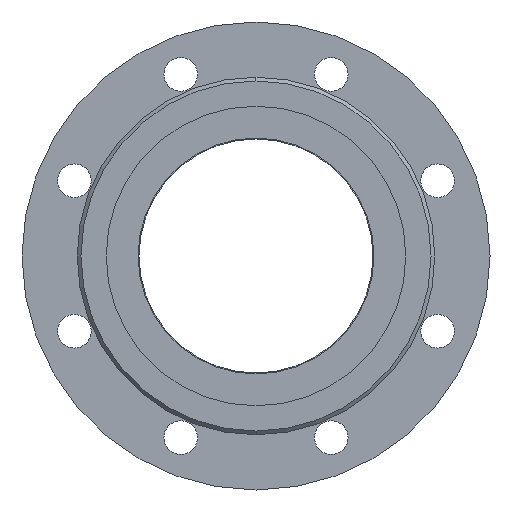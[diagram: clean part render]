
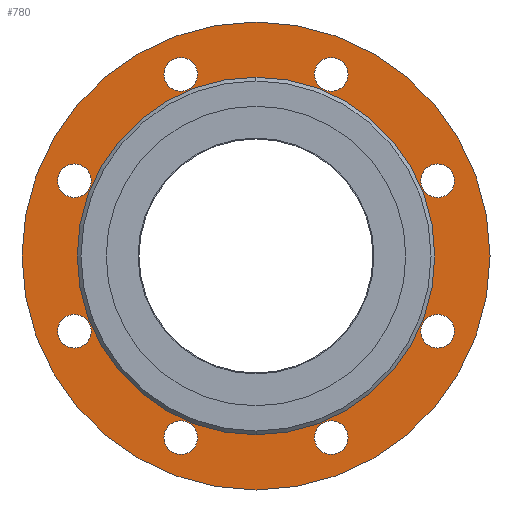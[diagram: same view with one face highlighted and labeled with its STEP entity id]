
A CAD part, left-side view. The second image highlights one B-rep face of the part: STEP entity #780.
In plain terms, the highlighted planar face has unit normal (-1, 0, 0).
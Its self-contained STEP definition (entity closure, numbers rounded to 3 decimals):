
#780=ADVANCED_FACE('',(#1480,#1481,#1482,#1483,#1484,#1485,#1486,#1487,#1488,#1489),#1490,.F.);
#1480=FACE_BOUND('',#2290,.T.);
#1481=FACE_BOUND('',#2291,.T.);
#1482=FACE_BOUND('',#2292,.T.);
#1483=FACE_BOUND('',#2293,.T.);
#1484=FACE_BOUND('',#2294,.T.);
#1485=FACE_BOUND('',#2295,.T.);
#1486=FACE_BOUND('',#2296,.T.);
#1487=FACE_BOUND('',#2297,.T.);
#1488=FACE_BOUND('',#2298,.T.);
#1489=FACE_OUTER_BOUND('',#2299,.T.);
#1490=PLANE('',#2300);
#2290=EDGE_LOOP('',(#3655,#3656));
#2291=EDGE_LOOP('',(#3657,#3658));
#2292=EDGE_LOOP('',(#3659,#3660));
#2293=EDGE_LOOP('',(#3661,#3662));
#2294=EDGE_LOOP('',(#3663,#3664));
#2295=EDGE_LOOP('',(#3665,#3666));
#2296=EDGE_LOOP('',(#3667,#3668));
#2297=EDGE_LOOP('',(#3669,#3670));
#2298=EDGE_LOOP('',(#3671,#3672));
#2299=EDGE_LOOP('',(#3673,#3674));
#2300=AXIS2_PLACEMENT_3D('',#3675,#3676,#3677);
#3655=ORIENTED_EDGE('',*,*,#4785,.T.);
#3656=ORIENTED_EDGE('',*,*,#4671,.T.);
#3657=ORIENTED_EDGE('',*,*,#4827,.T.);
#3658=ORIENTED_EDGE('',*,*,#4664,.T.);
#3659=ORIENTED_EDGE('',*,*,#4819,.T.);
#3660=ORIENTED_EDGE('',*,*,#4800,.T.);
#3661=ORIENTED_EDGE('',*,*,#4828,.T.);
#3662=ORIENTED_EDGE('',*,*,#4329,.T.);
#3663=ORIENTED_EDGE('',*,*,#4829,.T.);
#3664=ORIENTED_EDGE('',*,*,#4830,.T.);
#3665=ORIENTED_EDGE('',*,*,#4831,.T.);
#3666=ORIENTED_EDGE('',*,*,#4488,.T.);
#3667=ORIENTED_EDGE('',*,*,#4511,.T.);
#3668=ORIENTED_EDGE('',*,*,#4809,.T.);
#3669=ORIENTED_EDGE('',*,*,#4388,.T.);
#3670=ORIENTED_EDGE('',*,*,#4832,.T.);
#3671=ORIENTED_EDGE('',*,*,#4703,.T.);
#3672=ORIENTED_EDGE('',*,*,#4674,.T.);
#3673=ORIENTED_EDGE('',*,*,#4757,.F.);
#3674=ORIENTED_EDGE('',*,*,#4833,.F.);
#3675=CARTESIAN_POINT('',(5.0,0.0,0.));
#3676=DIRECTION('',(1.0,0.0,0.));
#3677=DIRECTION('',(0.,0.0,-1.0));
#4329=EDGE_CURVE('',#5048,#5046,#5049,.T.);
#4388=EDGE_CURVE('',#5142,#5146,#5148,.T.);
#4488=EDGE_CURVE('',#5312,#5310,#5313,.T.);
#4511=EDGE_CURVE('',#5344,#5348,#5350,.T.);
#4664=EDGE_CURVE('',#5585,#5583,#5586,.T.);
#4671=EDGE_CURVE('',#5592,#5596,#5598,.T.);
#4674=EDGE_CURVE('',#5603,#5601,#5604,.T.);
#4703=EDGE_CURVE('',#5601,#5603,#5637,.T.);
#4757=EDGE_CURVE('',#5712,#5714,#5715,.T.);
#4785=EDGE_CURVE('',#5596,#5592,#5749,.T.);
#4800=EDGE_CURVE('',#5769,#5767,#5770,.T.);
#4809=EDGE_CURVE('',#5348,#5344,#5779,.T.);
#4819=EDGE_CURVE('',#5767,#5769,#5789,.T.);
#4827=EDGE_CURVE('',#5583,#5585,#5799,.T.);
#4828=EDGE_CURVE('',#5046,#5048,#5800,.T.);
#4829=EDGE_CURVE('',#5801,#5802,#5803,.T.);
#4830=EDGE_CURVE('',#5802,#5801,#5804,.T.);
#4831=EDGE_CURVE('',#5310,#5312,#5805,.T.);
#4832=EDGE_CURVE('',#5146,#5142,#5806,.T.);
#4833=EDGE_CURVE('',#5714,#5712,#5807,.T.);
#5046=VERTEX_POINT('',#6053);
#5048=VERTEX_POINT('',#6056);
#5049=CIRCLE('',#6057,9.0);
#5142=VERTEX_POINT('',#6175);
#5146=VERTEX_POINT('',#6180);
#5148=CIRCLE('',#6183,9.0);
#5310=VERTEX_POINT('',#6380);
#5312=VERTEX_POINT('',#6383);
#5313=CIRCLE('',#6384,9.0);
#5344=VERTEX_POINT('',#6418);
#5348=VERTEX_POINT('',#6423);
#5350=CIRCLE('',#6426,9.0);
#5583=VERTEX_POINT('',#6717);
#5585=VERTEX_POINT('',#6720);
#5586=CIRCLE('',#6721,9.0);
#5592=VERTEX_POINT('',#6728);
#5596=VERTEX_POINT('',#6733);
#5598=CIRCLE('',#6736,62.5);
#5601=VERTEX_POINT('',#6739);
#5603=VERTEX_POINT('',#6742);
#5604=CIRCLE('',#6743,9.0);
#5637=CIRCLE('',#6788,9.0);
#5712=VERTEX_POINT('',#6872);
#5714=VERTEX_POINT('',#6875);
#5715=CIRCLE('',#6876,125.0);
#5749=CIRCLE('',#6923,62.5);
#5767=VERTEX_POINT('',#6944);
#5769=VERTEX_POINT('',#6947);
#5770=CIRCLE('',#6948,9.0);
#5779=CIRCLE('',#6959,9.0);
#5789=CIRCLE('',#6972,9.0);
#5799=CIRCLE('',#6986,9.0);
#5800=CIRCLE('',#6987,9.0);
#5801=VERTEX_POINT('',#6988);
#5802=VERTEX_POINT('',#6989);
#5803=CIRCLE('',#6990,9.0);
#5804=CIRCLE('',#6991,9.0);
#5805=CIRCLE('',#6992,9.0);
#5806=CIRCLE('',#6993,9.0);
#5807=CIRCLE('',#6994,125.0);
#6053=CARTESIAN_POINT('',(5.0,-97.007,31.182));
#6056=CARTESIAN_POINT('',(5.0,-97.007,49.182));
#6057=AXIS2_PLACEMENT_3D('',#7236,#7237,#7238);
#6175=CARTESIAN_POINT('',(5.0,-97.007,-49.182));
#6180=CARTESIAN_POINT('',(5.0,-97.007,-31.182));
#6183=AXIS2_PLACEMENT_3D('',#7317,#7318,#7319);
#6380=CARTESIAN_POINT('',(5.0,97.007,31.182));
#6383=CARTESIAN_POINT('',(5.0,97.007,49.182));
#6384=AXIS2_PLACEMENT_3D('',#7473,#7474,#7475);
#6418=CARTESIAN_POINT('',(5.0,40.182,88.007));
#6423=CARTESIAN_POINT('',(5.,40.182,106.007));
#6426=AXIS2_PLACEMENT_3D('',#7514,#7515,#7516);
#6717=CARTESIAN_POINT('',(5.0,97.007,-49.182));
#6720=CARTESIAN_POINT('',(5.0,97.007,-31.182));
#6721=AXIS2_PLACEMENT_3D('',#7729,#7730,#7731);
#6728=CARTESIAN_POINT('',(5.0,0.,-62.5));
#6733=CARTESIAN_POINT('',(5.0,0.,62.5));
#6736=AXIS2_PLACEMENT_3D('',#7741,#7742,#7743);
#6739=CARTESIAN_POINT('',(5.0,-40.182,-106.007));
#6742=CARTESIAN_POINT('',(5.,-40.182,-88.007));
#6743=AXIS2_PLACEMENT_3D('',#7745,#7746,#7747);
#6788=AXIS2_PLACEMENT_3D('',#7775,#7776,#7777);
#6872=CARTESIAN_POINT('',(5.,0.0,-125.0));
#6875=CARTESIAN_POINT('',(5.,0.,125.0));
#6876=AXIS2_PLACEMENT_3D('',#7878,#7879,#7880);
#6923=AXIS2_PLACEMENT_3D('',#7906,#7907,#7908);
#6944=CARTESIAN_POINT('',(5.0,40.182,-106.007));
#6947=CARTESIAN_POINT('',(5.,40.182,-88.007));
#6948=AXIS2_PLACEMENT_3D('',#7925,#7926,#7927);
#6959=AXIS2_PLACEMENT_3D('',#7933,#7934,#7935);
#6972=AXIS2_PLACEMENT_3D('',#7942,#7943,#7944);
#6986=AXIS2_PLACEMENT_3D('',#7949,#7950,#7951);
#6987=AXIS2_PLACEMENT_3D('',#7952,#7953,#7954);
#6988=CARTESIAN_POINT('',(5.0,-40.182,88.007));
#6989=CARTESIAN_POINT('',(5.,-40.182,106.007));
#6990=AXIS2_PLACEMENT_3D('',#7955,#7956,#7957);
#6991=AXIS2_PLACEMENT_3D('',#7958,#7959,#7960);
#6992=AXIS2_PLACEMENT_3D('',#7961,#7962,#7963);
#6993=AXIS2_PLACEMENT_3D('',#7964,#7965,#7966);
#6994=AXIS2_PLACEMENT_3D('',#7967,#7968,#7969);
#7236=CARTESIAN_POINT('',(5.0,-97.007,40.182));
#7237=DIRECTION('',(1.0,0.0,0.));
#7238=DIRECTION('',(0.,0.0,-1.0));
#7317=CARTESIAN_POINT('',(5.0,-97.007,-40.182));
#7318=DIRECTION('',(1.0,0.0,0.));
#7319=DIRECTION('',(0.,0.0,-1.0));
#7473=CARTESIAN_POINT('',(5.0,97.007,40.182));
#7474=DIRECTION('',(1.0,0.0,0.));
#7475=DIRECTION('',(0.,0.0,-1.0));
#7514=CARTESIAN_POINT('',(5.,40.182,97.007));
#7515=DIRECTION('',(1.0,0.0,0.));
#7516=DIRECTION('',(0.,0.0,-1.0));
#7729=CARTESIAN_POINT('',(5.0,97.007,-40.182));
#7730=DIRECTION('',(1.0,0.0,0.));
#7731=DIRECTION('',(0.,0.0,-1.0));
#7741=CARTESIAN_POINT('',(5.0,0.0,0.));
#7742=DIRECTION('',(1.0,0.0,0.));
#7743=DIRECTION('',(0.,0.0,-1.0));
#7745=CARTESIAN_POINT('',(5.,-40.182,-97.007));
#7746=DIRECTION('',(1.0,0.0,0.));
#7747=DIRECTION('',(0.,0.0,-1.0));
#7775=CARTESIAN_POINT('',(5.,-40.182,-97.007));
#7776=DIRECTION('',(1.0,0.0,0.));
#7777=DIRECTION('',(0.,0.0,-1.0));
#7878=CARTESIAN_POINT('',(5.0,0.0,0.));
#7879=DIRECTION('',(1.0,0.0,0.));
#7880=DIRECTION('',(0.,0.0,-1.0));
#7906=CARTESIAN_POINT('',(5.0,0.0,0.));
#7907=DIRECTION('',(1.0,0.0,0.));
#7908=DIRECTION('',(0.,0.0,-1.0));
#7925=CARTESIAN_POINT('',(5.,40.182,-97.007));
#7926=DIRECTION('',(1.0,0.0,0.));
#7927=DIRECTION('',(0.,0.0,-1.0));
#7933=CARTESIAN_POINT('',(5.,40.182,97.007));
#7934=DIRECTION('',(1.0,0.0,0.));
#7935=DIRECTION('',(0.,0.0,-1.0));
#7942=CARTESIAN_POINT('',(5.,40.182,-97.007));
#7943=DIRECTION('',(1.0,0.0,0.));
#7944=DIRECTION('',(0.,0.0,-1.0));
#7949=CARTESIAN_POINT('',(5.0,97.007,-40.182));
#7950=DIRECTION('',(1.0,0.0,0.));
#7951=DIRECTION('',(0.,0.0,-1.0));
#7952=CARTESIAN_POINT('',(5.0,-97.007,40.182));
#7953=DIRECTION('',(1.0,0.0,0.));
#7954=DIRECTION('',(0.,0.0,-1.0));
#7955=CARTESIAN_POINT('',(5.,-40.182,97.007));
#7956=DIRECTION('',(1.0,0.0,0.));
#7957=DIRECTION('',(0.,0.0,-1.0));
#7958=CARTESIAN_POINT('',(5.,-40.182,97.007));
#7959=DIRECTION('',(1.0,0.0,0.));
#7960=DIRECTION('',(0.,0.0,-1.0));
#7961=CARTESIAN_POINT('',(5.0,97.007,40.182));
#7962=DIRECTION('',(1.0,0.0,0.));
#7963=DIRECTION('',(0.,0.0,-1.0));
#7964=CARTESIAN_POINT('',(5.0,-97.007,-40.182));
#7965=DIRECTION('',(1.0,0.0,0.));
#7966=DIRECTION('',(0.,0.0,-1.0));
#7967=CARTESIAN_POINT('',(5.0,0.0,0.));
#7968=DIRECTION('',(1.0,0.0,0.));
#7969=DIRECTION('',(0.,0.0,-1.0));
